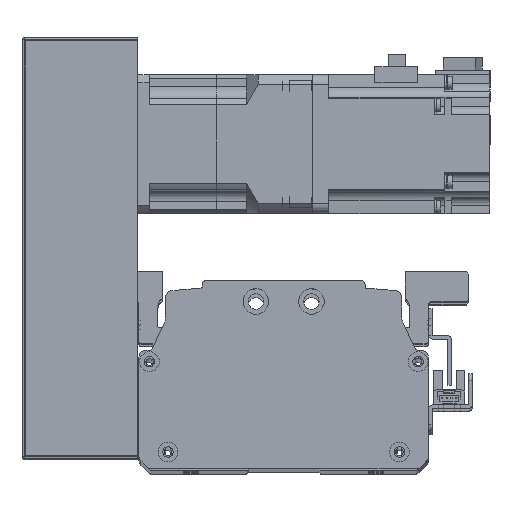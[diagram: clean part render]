
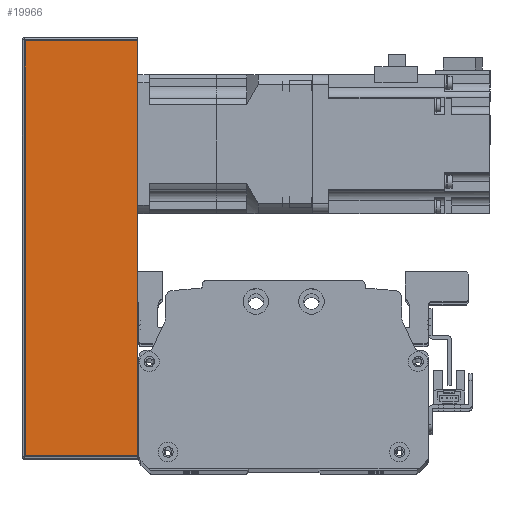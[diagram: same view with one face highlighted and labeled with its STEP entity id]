
A CAD part, top view. The second image highlights one B-rep face of the part: STEP entity #19966.
In plain terms, the highlighted planar face has unit normal (0, 0, 1) as drawn and (0, -1, 0) by its records, which use the part's own axes.
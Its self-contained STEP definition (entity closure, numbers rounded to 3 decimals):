
#604=PLANE('',#21946);
#1823=LINE('',#32960,#3447);
#1832=LINE('',#32999,#3456);
#1835=LINE('',#33009,#3459);
#1836=LINE('',#33011,#3460);
#3447=VECTOR('',#26654,10.);
#3456=VECTOR('',#26703,10.);
#3459=VECTOR('',#26720,10.);
#3460=VECTOR('',#26723,10.);
#5846=FACE_OUTER_BOUND('',#7314,.T.);
#7314=EDGE_LOOP('',(#17187,#17188,#17189,#17190));
#10209=VERTEX_POINT('',#32957);
#10210=VERTEX_POINT('',#32959);
#10219=VERTEX_POINT('',#32996);
#10220=VERTEX_POINT('',#32998);
#12665=EDGE_CURVE('',#10209,#10210,#1823,.T.);
#12685=EDGE_CURVE('',#10219,#10220,#1832,.T.);
#12691=EDGE_CURVE('',#10220,#10209,#1835,.T.);
#12692=EDGE_CURVE('',#10210,#10219,#1836,.T.);
#17187=ORIENTED_EDGE('',*,*,#12685,.F.);
#17188=ORIENTED_EDGE('',*,*,#12692,.F.);
#17189=ORIENTED_EDGE('',*,*,#12665,.F.);
#17190=ORIENTED_EDGE('',*,*,#12691,.F.);
#19966=ADVANCED_FACE('',(#5846),#604,.T.);
#21946=AXIS2_PLACEMENT_3D('',#33010,#26721,#26722);
#26654=DIRECTION('',(1.,0.,0.));
#26703=DIRECTION('',(-1.,0.,0.));
#26720=DIRECTION('',(0.,0.,1.));
#26721=DIRECTION('center_axis',(0.,-1.,0.));
#26722=DIRECTION('ref_axis',(1.,0.,0.));
#26723=DIRECTION('',(0.,0.,-1.));
#32957=CARTESIAN_POINT('',(-90.,-38.,25.));
#32959=CARTESIAN_POINT('',(90.,-38.,25.));
#32960=CARTESIAN_POINT('',(91.,-38.,25.));
#32996=CARTESIAN_POINT('',(90.,-38.,-24.));
#32998=CARTESIAN_POINT('',(-90.,-38.,-24.));
#32999=CARTESIAN_POINT('',(-45.5,-38.,-24.));
#33009=CARTESIAN_POINT('',(-90.,-38.,0.));
#33010=CARTESIAN_POINT('Origin',(-91.,-38.,0.));
#33011=CARTESIAN_POINT('',(90.,-38.,0.));
